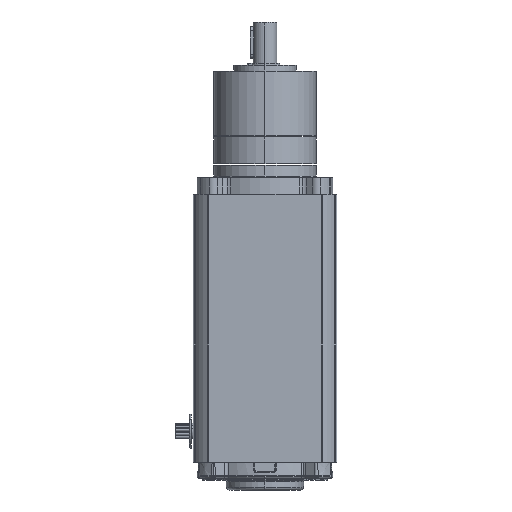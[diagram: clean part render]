
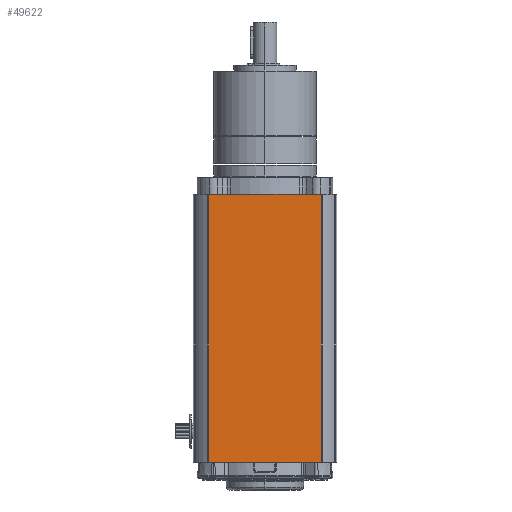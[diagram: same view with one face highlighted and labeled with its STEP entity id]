
A CAD part, left-side view. The second image highlights one B-rep face of the part: STEP entity #49622.
In plain terms, the highlighted planar face has unit normal (-1, 0, 0).
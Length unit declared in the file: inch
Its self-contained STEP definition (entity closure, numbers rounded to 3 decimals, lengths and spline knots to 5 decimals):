
#195 = CARTESIAN_POINT ( 'NONE',  ( -1.442, -1.1275, -7.33954 ) ) ;
#4291 = AXIS2_PLACEMENT_3D ( 'NONE', #4645, #34596, #8941 ) ;
#4645 = CARTESIAN_POINT ( 'NONE',  ( -1.442, 1.1475, -7.33954 ) ) ;
#7591 = ORIENTED_EDGE ( 'NONE', *, *, #18345, .T. ) ;
#8762 = PLANE ( 'NONE',  #4291 ) ;
#8941 = DIRECTION ( 'NONE',  ( 0., 0., 1. ) ) ;
#9080 = VERTEX_POINT ( 'NONE', #49623 ) ;
#9440 = CARTESIAN_POINT ( 'NONE',  ( -1.442, 1.1275, -1.83454 ) ) ;
#11517 = VERTEX_POINT ( 'NONE', #46159 ) ;
#13353 = LINE ( 'NONE', #38993, #23346 ) ;
#13497 = DIRECTION ( 'NONE',  ( 0., 0., -1. ) ) ;
#17812 = VERTEX_POINT ( 'NONE', #9440 ) ;
#18345 = EDGE_CURVE ( 'NONE', #9080, #11517, #42317, .T. ) ;
#18507 = CARTESIAN_POINT ( 'NONE',  ( -1.442, 1.1275, -7.20454 ) ) ;
#19437 = VECTOR ( 'NONE', #22424, 39.37008 ) ;
#19798 = LINE ( 'NONE', #26180, #31215 ) ;
#20358 = ORIENTED_EDGE ( 'NONE', *, *, #27037, .T. ) ;
#22424 = DIRECTION ( 'NONE',  ( 0., 0., 1. ) ) ;
#23346 = VECTOR ( 'NONE', #34854, 39.37008 ) ;
#24945 = EDGE_LOOP ( 'NONE', ( #20358, #41108, #7591, #29045 ) ) ;
#26180 = CARTESIAN_POINT ( 'NONE',  ( -1.442, 1.1275, -7.33954 ) ) ;
#27037 = EDGE_CURVE ( 'NONE', #17812, #40705, #19798, .T. ) ;
#28608 = LINE ( 'NONE', #31091, #38706 ) ;
#29045 = ORIENTED_EDGE ( 'NONE', *, *, #31082, .F. ) ;
#31082 = EDGE_CURVE ( 'NONE', #17812, #11517, #28608, .T. ) ;
#31091 = CARTESIAN_POINT ( 'NONE',  ( -1.442, 1.1475, -1.83454 ) ) ;
#31215 = VECTOR ( 'NONE', #13497, 39.37008 ) ;
#34596 = DIRECTION ( 'NONE',  ( -1., 0., 0. ) ) ;
#34854 = DIRECTION ( 'NONE',  ( 0., 1., 0. ) ) ;
#38706 = VECTOR ( 'NONE', #39749, 39.37008 ) ;
#38993 = CARTESIAN_POINT ( 'NONE',  ( -1.442, -1.1275, -7.20454 ) ) ;
#39749 = DIRECTION ( 'NONE',  ( 0., -1., 0. ) ) ;
#40705 = VERTEX_POINT ( 'NONE', #18507 ) ;
#41108 = ORIENTED_EDGE ( 'NONE', *, *, #53905, .F. ) ;
#42317 = LINE ( 'NONE', #195, #19437 ) ;
#46159 = CARTESIAN_POINT ( 'NONE',  ( -1.442, -1.1275, -1.83454 ) ) ;
#49622 = ADVANCED_FACE ( 'NONE', ( #52139 ), #8762, .T. ) ;
#49623 = CARTESIAN_POINT ( 'NONE',  ( -1.442, -1.1275, -7.20454 ) ) ;
#52139 = FACE_OUTER_BOUND ( 'NONE', #24945, .T. ) ;
#53905 = EDGE_CURVE ( 'NONE', #9080, #40705, #13353, .T. ) ;
